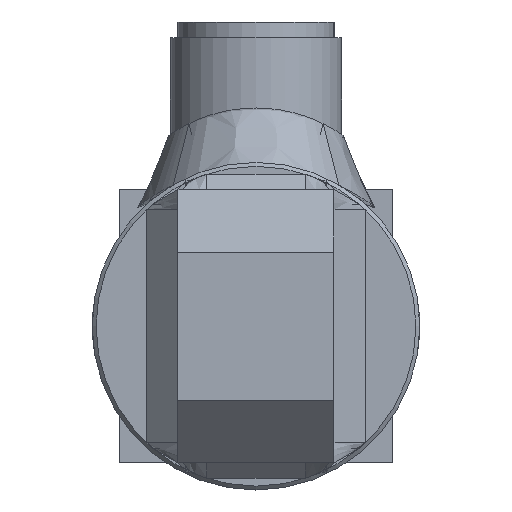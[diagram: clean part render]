
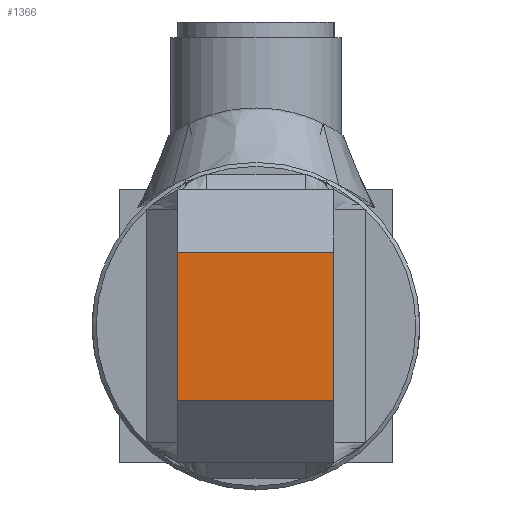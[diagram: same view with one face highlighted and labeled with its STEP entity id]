
A CAD part, left-side view. The second image highlights one B-rep face of the part: STEP entity #1366.
In plain terms, the highlighted planar face has unit normal (-1, 0, 0) as drawn and (1, 0, 0) by its records, which use the part's own axes.
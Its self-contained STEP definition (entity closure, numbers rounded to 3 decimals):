
#1366 = ADVANCED_FACE( '', ( #2471 ), #2472, .F. );
#2471 = FACE_OUTER_BOUND( '', #5959, .T. );
#2472 = PLANE( '', #5960 );
#5959 = EDGE_LOOP( '', ( #7871, #7872, #7873, #7874 ) );
#5960 = AXIS2_PLACEMENT_3D( '', #7875, #7876, #7877 );
#7871 = ORIENTED_EDGE( '', *, *, #8589, .T. );
#7872 = ORIENTED_EDGE( '', *, *, #8798, .T. );
#7873 = ORIENTED_EDGE( '', *, *, #8441, .T. );
#7874 = ORIENTED_EDGE( '', *, *, #8896, .T. );
#7875 = CARTESIAN_POINT( '', ( 42., -10., 17.5 ) );
#7876 = DIRECTION( '', ( -1., 0., 0. ) );
#7877 = DIRECTION( '', ( 0., -1., 0. ) );
#8441 = EDGE_CURVE( '', #9578, #9579, #9580, .T. );
#8589 = EDGE_CURVE( '', #9813, #9811, #9814, .T. );
#8798 = EDGE_CURVE( '', #9811, #9578, #10109, .T. );
#8896 = EDGE_CURVE( '', #9579, #9813, #10233, .T. );
#9578 = VERTEX_POINT( '', #10997 );
#9579 = VERTEX_POINT( '', #10998 );
#9580 = LINE( '', #10999, #11000 );
#9811 = VERTEX_POINT( '', #11520 );
#9813 = VERTEX_POINT( '', #11523 );
#9814 = LINE( '', #11524, #11525 );
#10109 = LINE( '', #12349, #12350 );
#10233 = LINE( '', #12568, #12569 );
#10997 = CARTESIAN_POINT( '', ( 42., -10., 9.5 ) );
#10998 = CARTESIAN_POINT( '', ( 42., -10., -9.5 ) );
#10999 = CARTESIAN_POINT( '', ( 42., -10., 17.5 ) );
#11000 = VECTOR( '', #12957, 1000. );
#11520 = CARTESIAN_POINT( '', ( 42., 10., 9.5 ) );
#11523 = CARTESIAN_POINT( '', ( 42., 10., -9.5 ) );
#11524 = CARTESIAN_POINT( '', ( 42., 10., -17.5 ) );
#11525 = VECTOR( '', #13095, 1000. );
#12349 = CARTESIAN_POINT( '', ( 42., -10., 9.5 ) );
#12350 = VECTOR( '', #13276, 1000. );
#12568 = CARTESIAN_POINT( '', ( 42., -10., -9.5 ) );
#12569 = VECTOR( '', #13334, 1000. );
#12957 = DIRECTION( '', ( 0., 0., -1. ) );
#13095 = DIRECTION( '', ( 0., 0., 1. ) );
#13276 = DIRECTION( '', ( 0., -1., 0. ) );
#13334 = DIRECTION( '', ( 0., 1., 0. ) );
